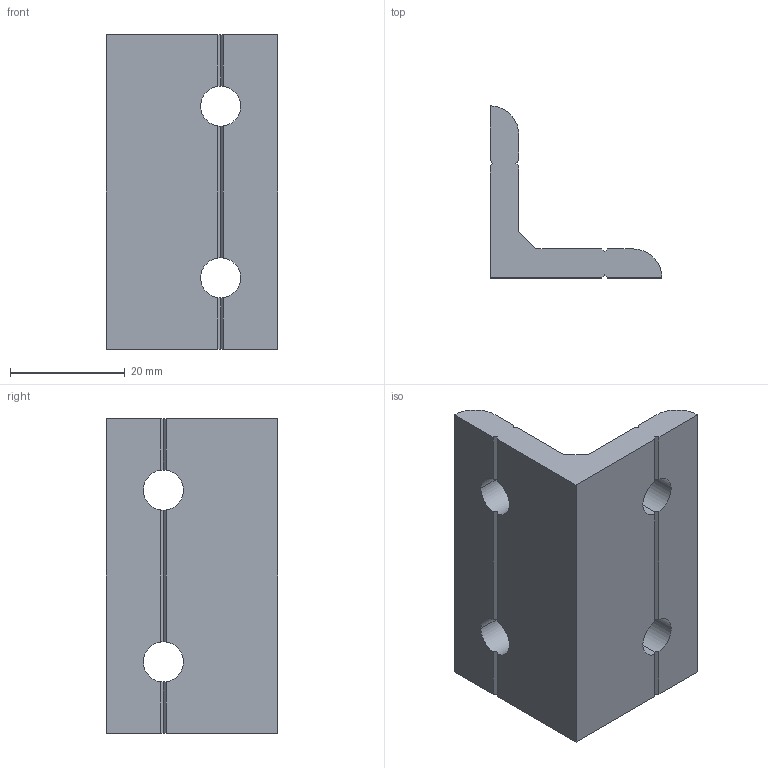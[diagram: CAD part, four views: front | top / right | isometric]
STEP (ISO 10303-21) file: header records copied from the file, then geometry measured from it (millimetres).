
FILE_DESCRIPTION (( 'STEP AP203' ), '1' );
FILE_NAME ('DAL3055-6.STEP', '2019-05-24T08:55:37', ( '' ), ( '' ), 'SwSTEP 2.0', 'SolidWorks 2012', '' );
FILE_SCHEMA (( 'CONFIG_CONTROL_DESIGN' ));
Length unit declared in the file: millimetre
Products named in the file (1): DAL3055-6
Bounding box: 30 x 30 x 55 mm (x, y, z)
Volume: 13971.6 mm3; surface area: 6998.8 mm2
Topology: 1 solids, 1 shells, 45 faces, 145 edges, 94 vertices
Faces by surface type: plane 35, cylinder 10
Entity records: 1676 total; most frequent: CARTESIAN_POINT 381, ORIENTED_EDGE 290, DIRECTION 233, EDGE_CURVE 145, VERTEX_POINT 94, VECTOR 85, LINE 85, AXIS2_PLACEMENT_3D 74
